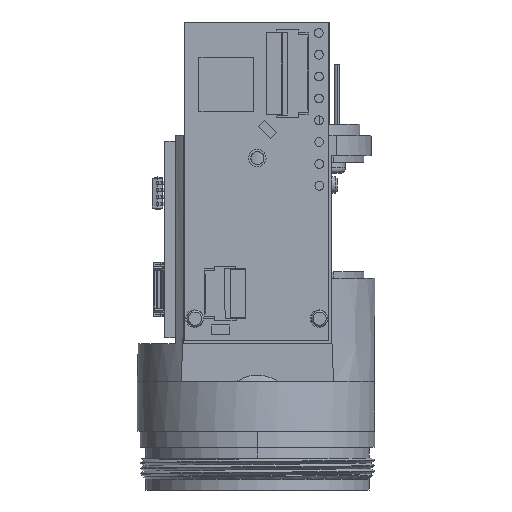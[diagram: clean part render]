
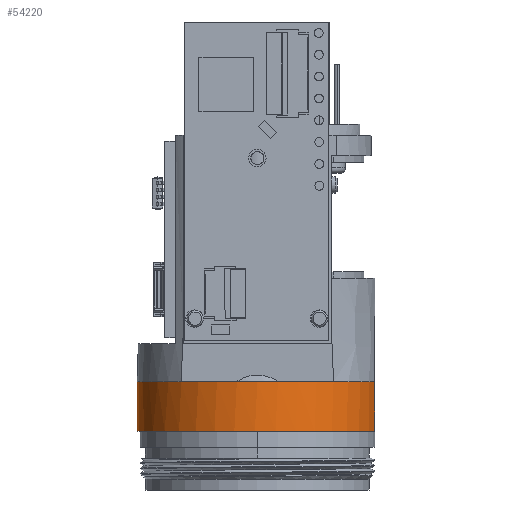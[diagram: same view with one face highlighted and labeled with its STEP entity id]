
A CAD part, front view. The second image highlights one B-rep face of the part: STEP entity #54220.
In plain terms, the highlighted cylindrical face has radius 11 mm (diameter 22 mm), a partial arc.
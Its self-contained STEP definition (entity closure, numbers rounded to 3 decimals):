
#12046=CARTESIAN_POINT('',(11.,11.003,-22.6));
#12047=DIRECTION('',(0.,0.,-1.));
#12048=DIRECTION('',(0.977,-0.212,0.));
#12049=AXIS2_PLACEMENT_3D('',#12046,#12047,#12048);
#12065=DIRECTION('',(0.,0.,-1.));
#12066=VECTOR('',#12065,4.5);
#12067=CARTESIAN_POINT('',(21.75,8.671,-22.6));
#12068=LINE('',#12067,#12066);
#12069=DIRECTION('',(0.,0.,1.));
#12070=VECTOR('',#12069,4.5);
#12071=CARTESIAN_POINT('',(21.75,13.335,-27.1));
#12072=LINE('',#12071,#12070);
#12140=CARTESIAN_POINT('',(11.,11.003,-22.6));
#12141=DIRECTION('',(0.,0.,-1.));
#12142=DIRECTION('',(0.635,0.773,0.));
#12143=AXIS2_PLACEMENT_3D('',#12140,#12141,#12142);
#12242=CARTESIAN_POINT('',(11.,11.003,-22.6));
#12243=DIRECTION('',(0.,0.,-1.));
#12244=DIRECTION('',(-0.635,-0.773,0.));
#12245=AXIS2_PLACEMENT_3D('',#12242,#12243,#12244);
#12247=CARTESIAN_POINT('',(11.,11.003,-22.6));
#12248=DIRECTION('',(0.,0.,-1.));
#12249=DIRECTION('',(-1.,0.,0.));
#12250=AXIS2_PLACEMENT_3D('',#12247,#12248,#12249);
#12386=CARTESIAN_POINT('',(11.,11.003,-22.6));
#12387=DIRECTION('',(0.,0.,-1.));
#12388=DIRECTION('',(-0.635,0.773,0.));
#12389=AXIS2_PLACEMENT_3D('',#12386,#12387,#12388);
#16237=CARTESIAN_POINT('',(11.,11.003,-22.6));
#16238=DIRECTION('',(0.,0.,-1.));
#16239=DIRECTION('',(0.635,-0.773,0.));
#16240=AXIS2_PLACEMENT_3D('',#16237,#16238,#16239);
#16340=CARTESIAN_POINT('',(11.,11.003,-27.1));
#16341=DIRECTION('',(0.,0.,1.));
#16342=DIRECTION('',(0.977,0.212,0.));
#16343=AXIS2_PLACEMENT_3D('',#16340,#16341,#16342);
#16345=CARTESIAN_POINT('',(11.,11.003,-27.1));
#16346=DIRECTION('',(0.,0.,1.));
#16347=DIRECTION('',(-1.,0.,0.));
#16348=AXIS2_PLACEMENT_3D('',#16345,#16346,#16347);
#28257=CARTESIAN_POINT('',(21.75,8.671,-22.6));
#28258=CARTESIAN_POINT('',(17.982,2.503,
-22.6));
#28259=VERTEX_POINT('',#28257);
#28260=VERTEX_POINT('',#28258);
#28262=CARTESIAN_POINT('',(21.75,8.671,-27.1));
#28263=VERTEX_POINT('',#28262);
#28264=CARTESIAN_POINT('',(0.,11.003,-27.1));
#28265=VERTEX_POINT('',#28264);
#28266=CARTESIAN_POINT('',(21.75,13.335,-27.1));
#28267=VERTEX_POINT('',#28266);
#28268=CARTESIAN_POINT('',(21.75,13.335,-22.6));
#28269=VERTEX_POINT('',#28268);
#28270=CARTESIAN_POINT('',(17.982,19.503,
-22.6));
#28271=VERTEX_POINT('',#28270);
#28272=CARTESIAN_POINT('',(4.018,19.503,-22.6));
#28273=VERTEX_POINT('',#28272);
#28274=CARTESIAN_POINT('',(0.,11.003,
-22.6));
#28275=VERTEX_POINT('',#28274);
#28276=CARTESIAN_POINT('',(4.018,2.503,
-22.6));
#28277=VERTEX_POINT('',#28276);
#54194=CARTESIAN_POINT('',(11.,11.003,-32.5));
#54195=DIRECTION('',(0.,0.,1.));
#54196=DIRECTION('',(1.,0.,0.));
#54197=AXIS2_PLACEMENT_3D('',#54194,#54195,#54196);
#54198=CYLINDRICAL_SURFACE('',#54197,11.);
#54200=ORIENTED_EDGE('',*,*,#54199,.T.);
#54202=ORIENTED_EDGE('',*,*,#54201,.F.);
#54204=ORIENTED_EDGE('',*,*,#54203,.F.);
#54206=ORIENTED_EDGE('',*,*,#54205,.T.);
#54208=ORIENTED_EDGE('',*,*,#54207,.F.);
#54210=ORIENTED_EDGE('',*,*,#54209,.F.);
#54212=ORIENTED_EDGE('',*,*,#54211,.F.);
#54214=ORIENTED_EDGE('',*,*,#54213,.F.);
#54216=ORIENTED_EDGE('',*,*,#54215,.F.);
#54217=ORIENTED_EDGE('',*,*,#54182,.F.);
#54218=EDGE_LOOP('',(#54200,#54202,#54204,#54206,#54208,#54210,#54212,#54214,
#54216,#54217));
#54219=FACE_OUTER_BOUND('',#54218,.F.);
#54220=ADVANCED_FACE('',(#54219),#54198,.T.);
#12050=CIRCLE('',#12049,11.);
#12144=CIRCLE('',#12143,11.);
#12246=CIRCLE('',#12245,11.);
#12251=CIRCLE('',#12250,11.);
#12390=CIRCLE('',#12389,11.);
#16241=CIRCLE('',#16240,11.);
#16344=CIRCLE('',#16343,11.);
#16349=CIRCLE('',#16348,11.);
#54182=EDGE_CURVE('',#28259,#28260,#12050,.T.);
#54199=EDGE_CURVE('',#28259,#28263,#12068,.T.);
#54201=EDGE_CURVE('',#28265,#28263,#16349,.T.);
#54203=EDGE_CURVE('',#28267,#28265,#16344,.T.);
#54205=EDGE_CURVE('',#28267,#28269,#12072,.T.);
#54207=EDGE_CURVE('',#28271,#28269,#12144,.T.);
#54209=EDGE_CURVE('',#28273,#28271,#12390,.T.);
#54211=EDGE_CURVE('',#28275,#28273,#12251,.T.);
#54213=EDGE_CURVE('',#28277,#28275,#12246,.T.);
#54215=EDGE_CURVE('',#28260,#28277,#16241,.T.);
